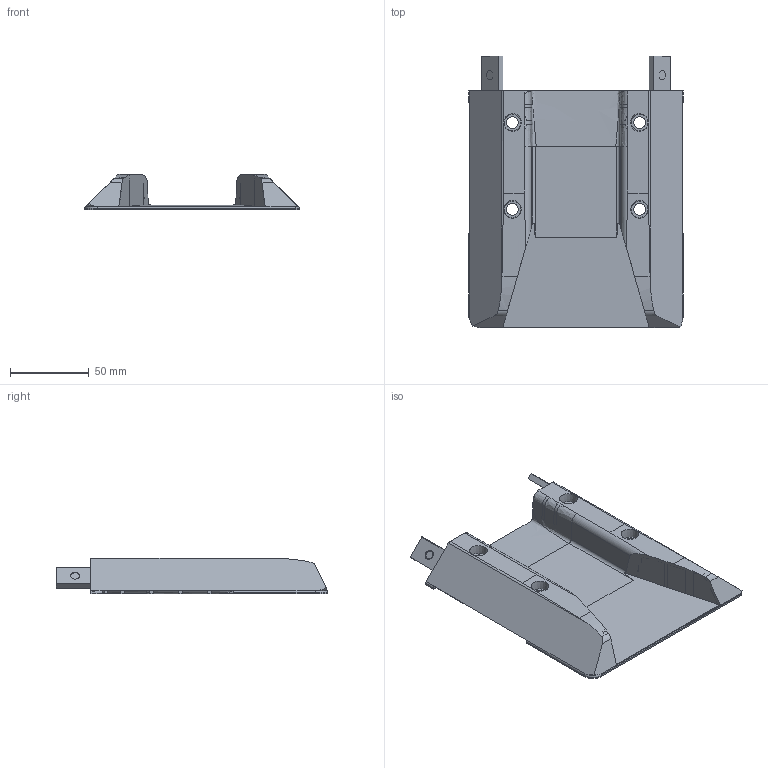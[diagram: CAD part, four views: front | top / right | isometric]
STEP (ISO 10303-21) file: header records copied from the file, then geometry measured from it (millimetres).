
FILE_DESCRIPTION(/* description */ ('STEP AP214'),/* implementation_level */ '2;1');
FILE_NAME(/* name */ ' 02082CC55',/* time_stamp */ '2026-01-21T15:43:42+01:00',/* author */ ('License CC BY-ND 4.0'),/* organization */ ('CADENAS'),/* preprocessor_version */ 'ST-DEVELOPER v20',/* originating_system */ 'PARTsolutions',/* authorisation */ ' ');
FILE_SCHEMA (('AUTOMOTIVE_DESIGN {1 0 10303 214 3 1 1}'));
Length unit declared in the file: millimetre
Products named in the file (1):  02082CC55
Bounding box: 135.8 x 172 x 22.7 mm (x, y, z)
Volume: 100232 mm3; surface area: 86047.8 mm2
Topology: 1 solids, 1 shells, 509 faces, 1414 edges, 948 vertices
Faces by surface type: plane 380, cylinder 51, cone 50, bspline 18, torus 10
Full cylindrical faces by diameter (mm): 4.917 x2
Entity records: 17043 total; most frequent: CARTESIAN_POINT 4308, ORIENTED_EDGE 2778, DIRECTION 2367, EDGE_CURVE 1389, LINE 967, VECTOR 967, VERTEX_POINT 941, AXIS2_PLACEMENT_3D 700
